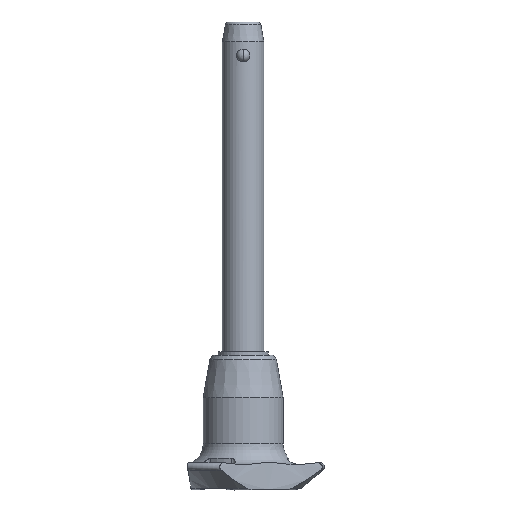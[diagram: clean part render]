
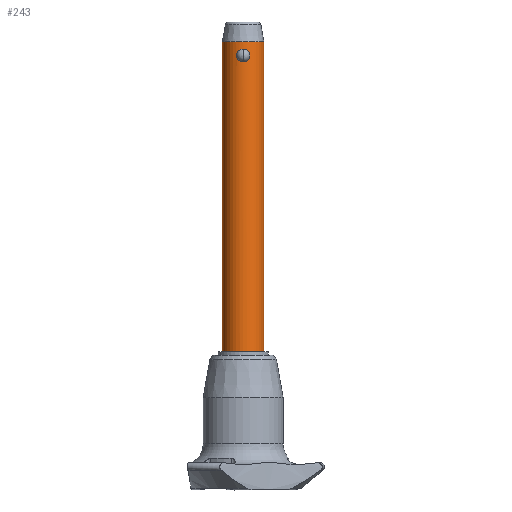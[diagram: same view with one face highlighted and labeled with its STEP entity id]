
A CAD part, front view. The second image highlights one B-rep face of the part: STEP entity #243.
In plain terms, the highlighted cylindrical face has radius 5 mm (diameter 10 mm), a partial arc.
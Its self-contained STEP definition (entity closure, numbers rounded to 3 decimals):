
#3 = EDGE_CURVE ( 'NONE', #2372, #1502, #2739, .T. ) ;
#8 = CARTESIAN_POINT ( 'NONE',  ( -0.792, -4.938, 0.19 ) ) ;
#20 = CARTESIAN_POINT ( 'NONE',  ( -1.519, -4.764, 1.013 ) ) ;
#38 = CARTESIAN_POINT ( 'NONE',  ( -1.047, -4.89, 0.357 ) ) ;
#51 = CARTESIAN_POINT ( 'NONE',  ( -0.966, -4.907, 0.296 ) ) ;
#69 = DIRECTION ( 'NONE',  ( 0., 0., 1. ) ) ;
#100 = EDGE_CURVE ( 'NONE', #940, #1498, #1555, .T. ) ;
#142 = EDGE_CURVE ( 'NONE', #2340, #940, #1764, .T. ) ;
#160 = CARTESIAN_POINT ( 'NONE',  ( 0.699, -4.952, 0.144 ) ) ;
#186 = CARTESIAN_POINT ( 'NONE',  ( 0.205, -5., 0. ) ) ;
#191 = ORIENTED_EDGE ( 'NONE', *, *, #791, .F. ) ;
#224 = CARTESIAN_POINT ( 'NONE',  ( -1.604, -4.736, 1.416 ) ) ;
#235 = CARTESIAN_POINT ( 'NONE',  ( -1.551, -4.753, 1.11 ) ) ;
#243 = ADVANCED_FACE ( 'NONE', ( #437, #2148 ), #1077, .T. ) ;
#264 = CARTESIAN_POINT ( 'NONE',  ( -1.047, -4.89, 2.676 ) ) ;
#283 = CARTESIAN_POINT ( 'NONE',  ( 1.519, -4.764, 2.021 ) ) ;
#434 = AXIS2_PLACEMENT_3D ( 'NONE', #2005, #910, #1108 ) ;
#437 = FACE_OUTER_BOUND ( 'NONE', #2240, .T. ) ;
#460 = EDGE_LOOP ( 'NONE', ( #191, #1945 ) ) ;
#470 = CARTESIAN_POINT ( 'NONE',  ( -0.7, -4.952, 2.888 ) ) ;
#487 = ORIENTED_EDGE ( 'NONE', *, *, #1759, .F. ) ;
#492 = CARTESIAN_POINT ( 'NONE',  ( 5., 0., -70. ) ) ;
#497 = LINE ( 'NONE', #704, #2006 ) ;
#504 = CARTESIAN_POINT ( 'NONE',  ( 1.265, -4.838, 0.57 ) ) ;
#519 = CARTESIAN_POINT ( 'NONE',  ( 0.792, -4.938, 2.844 ) ) ;
#632 = CARTESIAN_POINT ( 'NONE',  ( -0.208, -5., 3.033 ) ) ;
#662 = DIRECTION ( 'NONE',  ( 0., 0., -1. ) ) ;
#704 = CARTESIAN_POINT ( 'NONE',  ( -5., 0., -70. ) ) ;
#779 = CARTESIAN_POINT ( 'NONE',  ( -5., 0., 4.8 ) ) ;
#791 = EDGE_CURVE ( 'NONE', #1502, #2372, #2149, .T. ) ;
#834 = CARTESIAN_POINT ( 'NONE',  ( 5., 0., -70. ) ) ;
#858 = CARTESIAN_POINT ( 'NONE',  ( 0., 0., -70. ) ) ;
#865 = CARTESIAN_POINT ( 'NONE',  ( -1.594, -4.739, 1.312 ) ) ;
#877 = CARTESIAN_POINT ( 'NONE',  ( -0.791, -4.938, 2.844 ) ) ;
#889 = CARTESIAN_POINT ( 'NONE',  ( -0.205, -5., 0. ) ) ;
#900 = DIRECTION ( 'NONE',  ( 0., 0., 1. ) ) ;
#901 = CARTESIAN_POINT ( 'NONE',  ( 0., -5., 0. ) ) ;
#910 = DIRECTION ( 'NONE',  ( 0., 0., -1. ) ) ;
#911 = DIRECTION ( 'NONE',  ( 1., 0., 0. ) ) ;
#936 = CARTESIAN_POINT ( 'NONE',  ( 1.434, -4.79, 0.822 ) ) ;
#940 = VERTEX_POINT ( 'NONE', #1346 ) ;
#1008 = CARTESIAN_POINT ( 'NONE',  ( 0.792, -4.938, 0.19 ) ) ;
#1033 = CARTESIAN_POINT ( 'NONE',  ( 1.047, -4.89, 0.356 ) ) ;
#1077 = CYLINDRICAL_SURFACE ( 'NONE', #1644, 5. ) ;
#1084 = CARTESIAN_POINT ( 'NONE',  ( -1.394, -4.802, 0.731 ) ) ;
#1097 = CARTESIAN_POINT ( 'NONE',  ( -1.272, -4.838, 0.564 ) ) ;
#1108 = DIRECTION ( 'NONE',  ( 1., 0., 0. ) ) ;
#1115 = CARTESIAN_POINT ( 'NONE',  ( -1.383, -4.805, 2.299 ) ) ;
#1123 = CARTESIAN_POINT ( 'NONE',  ( 1.604, -4.736, 1.619 ) ) ;
#1135 = CARTESIAN_POINT ( 'NONE',  ( 1.048, -4.889, 2.676 ) ) ;
#1298 = CARTESIAN_POINT ( 'NONE',  ( -1.435, -4.79, 2.209 ) ) ;
#1332 = CARTESIAN_POINT ( 'NONE',  ( 1.56, -4.751, 1.103 ) ) ;
#1346 = CARTESIAN_POINT ( 'NONE',  ( 5., 0., 4.8 ) ) ;
#1348 = CARTESIAN_POINT ( 'NONE',  ( 1.594, -4.739, 1.721 ) ) ;
#1361 = CARTESIAN_POINT ( 'NONE',  ( 0., 0., -70. ) ) ;
#1378 = CARTESIAN_POINT ( 'NONE',  ( 0.412, -4.987, 2.996 ) ) ;
#1408 = ORIENTED_EDGE ( 'NONE', *, *, #100, .T. ) ;
#1498 = VERTEX_POINT ( 'NONE', #779 ) ;
#1502 = VERTEX_POINT ( 'NONE', #2718 ) ;
#1514 = AXIS2_PLACEMENT_3D ( 'NONE', #1361, #662, #911 ) ;
#1522 = CARTESIAN_POINT ( 'NONE',  ( -1.264, -4.838, 2.464 ) ) ;
#1532 = CARTESIAN_POINT ( 'NONE',  ( -1.197, -4.855, 2.539 ) ) ;
#1555 = CIRCLE ( 'NONE', #434, 5. ) ;
#1571 = CARTESIAN_POINT ( 'NONE',  ( 1.384, -4.805, 0.735 ) ) ;
#1642 = CARTESIAN_POINT ( 'NONE',  ( 0.412, -4.987, 0.037 ) ) ;
#1644 = AXIS2_PLACEMENT_3D ( 'NONE', #858, #2736, #1722 ) ;
#1722 = DIRECTION ( 'NONE',  ( 1., 0., 0. ) ) ;
#1759 = EDGE_CURVE ( 'NONE', #2340, #2165, #2573, .T. ) ;
#1764 = LINE ( 'NONE', #492, #2657 ) ;
#1794 = CARTESIAN_POINT ( 'NONE',  ( 1.272, -4.838, 2.47 ) ) ;
#1866 = CARTESIAN_POINT ( 'NONE',  ( 0.966, -4.907, 0.296 ) ) ;
#1905 = CARTESIAN_POINT ( 'NONE',  ( 1.196, -4.855, 0.493 ) ) ;
#1930 = CARTESIAN_POINT ( 'NONE',  ( -0.965, -4.907, 2.738 ) ) ;
#1944 = CARTESIAN_POINT ( 'NONE',  ( -1.56, -4.751, 1.931 ) ) ;
#1945 = ORIENTED_EDGE ( 'NONE', *, *, #3, .F. ) ;
#1976 = CARTESIAN_POINT ( 'NONE',  ( 1.551, -4.753, 1.922 ) ) ;
#2005 = CARTESIAN_POINT ( 'NONE',  ( 0., 0., 4.8 ) ) ;
#2006 = VECTOR ( 'NONE', #900, 1000. ) ;
#2013 = CARTESIAN_POINT ( 'NONE',  ( -5., 0., -70. ) ) ;
#2102 = CARTESIAN_POINT ( 'NONE',  ( 0., -5., 0. ) ) ;
#2142 = CARTESIAN_POINT ( 'NONE',  ( -1.604, -4.736, 1.724 ) ) ;
#2148 = FACE_BOUND ( 'NONE', #460, .T. ) ;
#2149 = B_SPLINE_CURVE_WITH_KNOTS ( 'NONE', 3,
 ( #2179, #632, #2578, #470, #877, #1930, #264, #1532, #1522, #1115, #1298, #1944, #2142, #224, #865, #235, #20, #1084, #1097, #38, #51, #8, #2154, #2335, #889, #901 ),
 .UNSPECIFIED., .F., .F.,
 ( 4, 2, 2, 2, 2, 2, 2, 2, 2, 2, 2, 2, 4 ),
 ( 0., 0.001, 0.001, 0.001, 0.002, 0.002, 0.002, 0.003, 0.003, 0.004, 0.004, 0.004, 0.005 ),
 .UNSPECIFIED. ) ;
#2154 = CARTESIAN_POINT ( 'NONE',  ( -0.699, -4.952, 0.145 ) ) ;
#2165 = VERTEX_POINT ( 'NONE', #2013 ) ;
#2171 = CARTESIAN_POINT ( 'NONE',  ( 1.395, -4.802, 2.301 ) ) ;
#2179 = CARTESIAN_POINT ( 'NONE',  ( 0., -5., 3.033 ) ) ;
#2186 = CARTESIAN_POINT ( 'NONE',  ( 0.208, -5., 3.033 ) ) ;
#2200 = CARTESIAN_POINT ( 'NONE',  ( 0., -5., 3.033 ) ) ;
#2240 = EDGE_LOOP ( 'NONE', ( #2336, #487, #2585, #1408 ) ) ;
#2335 = CARTESIAN_POINT ( 'NONE',  ( -0.412, -4.987, 0.037 ) ) ;
#2336 = ORIENTED_EDGE ( 'NONE', *, *, #2445, .F. ) ;
#2340 = VERTEX_POINT ( 'NONE', #834 ) ;
#2372 = VERTEX_POINT ( 'NONE', #2510 ) ;
#2389 = CARTESIAN_POINT ( 'NONE',  ( 0.7, -4.952, 2.888 ) ) ;
#2419 = CARTESIAN_POINT ( 'NONE',  ( 1.604, -4.736, 1.308 ) ) ;
#2435 = CARTESIAN_POINT ( 'NONE',  ( 0.966, -4.907, 2.738 ) ) ;
#2445 = EDGE_CURVE ( 'NONE', #2165, #1498, #497, .T. ) ;
#2510 = CARTESIAN_POINT ( 'NONE',  ( 0., -5., 0. ) ) ;
#2573 = CIRCLE ( 'NONE', #1514, 5. ) ;
#2578 = CARTESIAN_POINT ( 'NONE',  ( -0.412, -4.987, 2.997 ) ) ;
#2585 = ORIENTED_EDGE ( 'NONE', *, *, #142, .T. ) ;
#2657 = VECTOR ( 'NONE', #69, 1000. ) ;
#2718 = CARTESIAN_POINT ( 'NONE',  ( 0., -5., 3.033 ) ) ;
#2736 = DIRECTION ( 'NONE',  ( 0., 0., 1. ) ) ;
#2739 = B_SPLINE_CURVE_WITH_KNOTS ( 'NONE', 3,
 ( #2102, #186, #1642, #160, #1008, #1866, #1033, #1905, #504, #1571, #936, #1332, #2419, #1123, #1348, #1976, #283, #2171, #1794, #1135, #2435, #519, #2389, #1378, #2186, #2200 ),
 .UNSPECIFIED., .F., .F.,
 ( 4, 2, 2, 2, 2, 2, 2, 2, 2, 2, 2, 2, 4 ),
 ( 0.005, 0.006, 0.006, 0.006, 0.006, 0.007, 0.007, 0.008, 0.008, 0.009, 0.009, 0.009, 0.01 ),
 .UNSPECIFIED. ) ;
